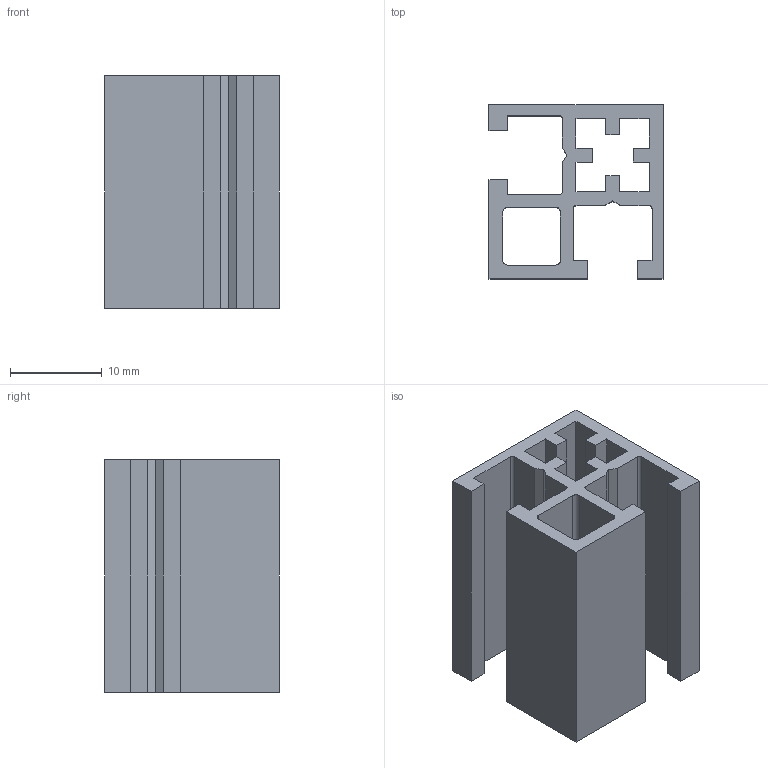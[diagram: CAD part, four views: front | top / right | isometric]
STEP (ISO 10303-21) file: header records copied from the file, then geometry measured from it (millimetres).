
FILE_DESCRIPTION((''),'2;1');
FILE_NAME('C:\Andys Backup Data\WEBSITE\DREAMWEAVER\MiniTec\Products\19_Series_Profiles\CAD\Step\20.1075 PROFILE 19X19 SQUARE HOLE.stp','2013-07-24T10:02:22',('Admin'),(''),'Autodesk Inventor 2012','Autodesk Inventor 2012','');
FILE_SCHEMA(('AUTOMOTIVE_DESIGN { 1 0 10303 214 1 1 1 1 }'));
Length unit declared in the file: inch
Products named in the file (1): 20.1075 PROFILE 19X19 SQUARE HOLE
Bounding box: 19 x 19 x 25.4 mm (x, y, z)
Volume: 3617.9 mm3; surface area: 5140.4 mm2
Topology: 1 solids, 1 shells, 60 faces, 174 edges, 116 vertices
Faces by surface type: plane 52, cylinder 8
Entity records: 1990 total; most frequent: CARTESIAN_POINT 351, ORIENTED_EDGE 348, DIRECTION 312, EDGE_CURVE 174, VECTOR 158, LINE 158, VERTEX_POINT 116, AXIS2_PLACEMENT_3D 77
